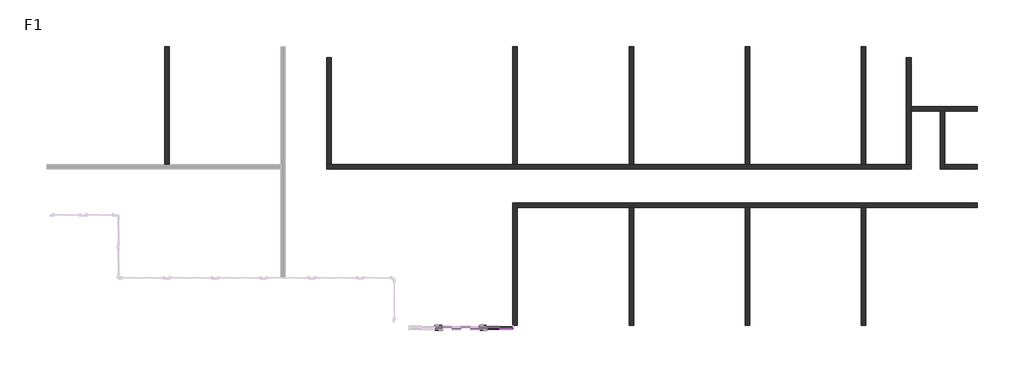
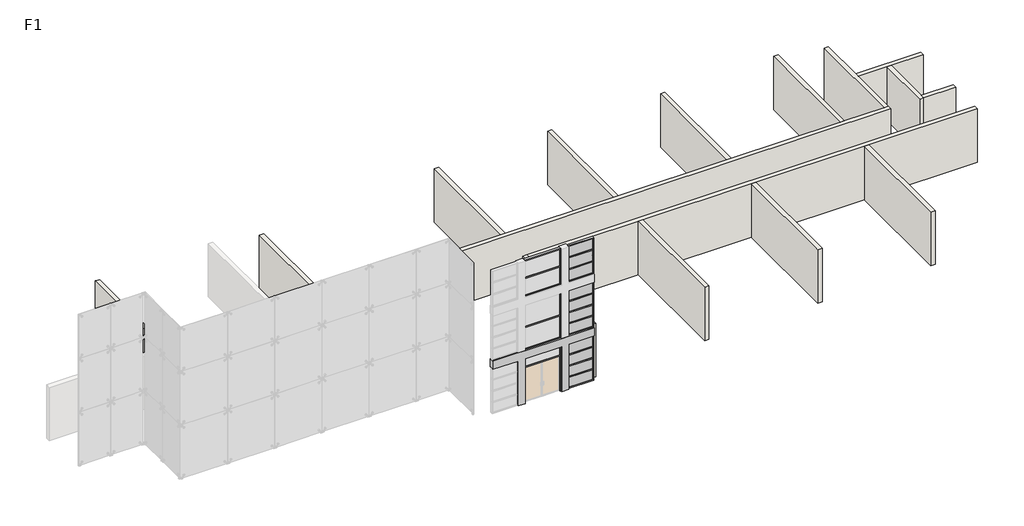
# One storey, part 2 of 2: 61 members, 16 walls, 12 plates.
"""IFC4 building model written with IfcOpenShell, lengths in millimetres."""

from ifc_helpers import new_model, si_unit, origin, origin_with_axes, place, context, project, spatial, polyline, outline, extrude, faceted_brep, transform, mapped, element, save
from components import member_50x150mm_c6049076, member_50x150mm_26769b4d, member_50x150mm_55273b40, member_50x150mm_84253eda, member_50x150mm_532eda0d, member_50x150mm_457f9466, member_50x150mm_6270d9f9, member_50x150mm_9e0f1e24, member_50x150mm_e11a3e7b, member_50x150mm_0d3281e4, member_50x150mm_205d2b36, member_50x150mm_b8963a12, member_50x150mm_14293e16, member_50x150mm_5dc04e1f, member_50x150mm_4883e7f1, member_50x150mm_491df31a, member_50x150mm_89bf1671, member_50x150mm_e5f2d676, member_50x150mm_7171523c, member_50x150mm_b8dbbb25, plate_a1f4ba17, plate_625a1d1a, plate_77a94082, plate_7cde3f8c, plate_973c4cc4, plate_8eec5e89

model = new_model("IFC4")

# Units and contexts
model_context = context("Model", 3, world=origin())
ifc_project = project(units=[si_unit("LENGTHUNIT", "METRE", prefix="MILLI")], contexts=[model_context])

# Site, building, storey
site = spatial("IfcSite", under=ifc_project)
building = spatial("IfcBuilding", under=site)
storey = spatial("IfcBuildingStorey", under=building, Name="F1", Elevation=0.0)

# Members
placement = place(None, origin())
member_50x150mm_shape = member_50x150mm_c6049076(model_context)
element("IfcMember", 1, ObjectType="矩形竖梃 : 50X150mm", at=placement, inside=storey, context=model_context, shape_type="MappedRepresentation", body=[
    mapped(member_50x150mm_shape, transform((-9571.7970835, -28279.0484842, 2250.0), x_axis=(0.0, 0.0, 1.0), y_axis=(0.0, -1.0, 0.0), z_axis=(1.0, 0.0, 0.0))),
])
element("IfcMember", 2, ObjectType="矩形竖梃 : 50X150mm", at=placement, inside=storey, context=model_context, shape_type="MappedRepresentation", body=[
    mapped(member_50x150mm_shape, transform((-9571.7970835, -28279.0484842, 4350.0), x_axis=(0.0, 0.0, 1.0), y_axis=(0.0, -1.0, 0.0), z_axis=(1.0, 0.0, 0.0))),
])
element("IfcMember", 3, ObjectType="矩形竖梃 : 50X150mm", at=placement, inside=storey, context=model_context, shape_type="MappedRepresentation", body=[
    mapped(member_50x150mm_shape, transform((-9571.7970835, -28279.0484842, 5100.0), x_axis=(0.0, 0.0, 1.0), y_axis=(0.0, -1.0, 0.0), z_axis=(1.0, 0.0, 0.0))),
])
element("IfcMember", 4, ObjectType="矩形竖梃 : 50X150mm", at=placement, inside=storey, context=model_context, shape_type="MappedRepresentation", body=[
    mapped(member_50x150mm_shape, transform((-9571.7970835, -28279.0484842, 5850.0), x_axis=(0.0, 0.0, 1.0), y_axis=(0.0, -1.0, 0.0), z_axis=(1.0, 0.0, 0.0))),
])
element("IfcMember", 5, ObjectType="矩形竖梃 : 50X150mm", at=placement, inside=storey, context=model_context, shape_type="MappedRepresentation", body=[
    mapped(member_50x150mm_shape, transform((-9571.7970835, -28279.0484842, 8000.0), x_axis=(0.0, 0.0, 1.0), y_axis=(0.0, -1.0, 0.0), z_axis=(1.0, 0.0, 0.0))),
])
element("IfcMember", 6, ObjectType="矩形竖梃 : 50X150mm", at=placement, inside=storey, context=model_context, shape_type="MappedRepresentation", body=[
    mapped(member_50x150mm_shape, transform((-9571.7970835, -28279.0484842, 750.0), x_axis=(0.0, 0.0, 1.0), y_axis=(0.0, -1.0, 0.0), z_axis=(1.0, 0.0, 0.0))),
])
element("IfcMember", 7, ObjectType="矩形竖梃 : 50X150mm", at=placement, inside=storey, context=model_context, shape_type="MappedRepresentation", body=[
    mapped(member_50x150mm_shape, transform((-9571.7970835, -28279.0484842, 1500.0), x_axis=(0.0, 0.0, 1.0), y_axis=(0.0, -1.0, 0.0), z_axis=(1.0, 0.0, 0.0))),
])
element("IfcMember", 8, ObjectType="矩形竖梃 : 50X150mm", at=placement, inside=storey, context=model_context, shape_type="MappedRepresentation", body=[
    mapped(member_50x150mm_shape, transform((-9571.7970835, -28279.0484842, 8800.0), x_axis=(0.0, 0.0, 1.0), y_axis=(0.0, -1.0, 0.0), z_axis=(1.0, 0.0, 0.0))),
])
element("IfcMember", 9, ObjectType="矩形竖梃 : 50X150mm", at=placement, inside=storey, context=model_context, shape_type="MappedRepresentation", body=[
    mapped(member_50x150mm_shape, transform((-9571.7970835, -28279.0484842, 3000.0), x_axis=(0.0, 0.0, 1.0), y_axis=(0.0, -1.0, 0.0), z_axis=(1.0, 0.0, 0.0))),
])
element("IfcMember", 10, ObjectType="矩形竖梃 : 50X150mm", at=placement, inside=storey, context=model_context, shape_type="MappedRepresentation", body=[
    mapped(member_50x150mm_shape, transform((-9571.7970835, -28279.0484842, 6600.0), x_axis=(0.0, 0.0, 1.0), y_axis=(0.0, -1.0, 0.0), z_axis=(1.0, 0.0, 0.0))),
])
element("IfcMember", 11, ObjectType="矩形竖梃 : 50X150mm", at=placement, inside=storey, context=model_context, shape_type="MappedRepresentation", body=[
    mapped(member_50x150mm_shape, transform((-9571.7970835, -28279.0484842, 7200.0), x_axis=(0.0, 0.0, 1.0), y_axis=(0.0, -1.0, 0.0), z_axis=(1.0, 0.0, 0.0))),
])
element("IfcMember", 12, ObjectType="矩形竖梃 : 50X150mm", at=placement, inside=storey, context=model_context, shape_type="MappedRepresentation", body=[
    mapped(member_50x150mm_shape, transform((-9571.7970835, -28279.0484842, 3600.0), x_axis=(0.0, 0.0, 1.0), y_axis=(0.0, -1.0, 0.0), z_axis=(1.0, 0.0, 0.0))),
])
member_50x150mm_2_shape = member_50x150mm_26769b4d(model_context)
element("IfcMember", 13, ObjectType="矩形竖梃 : 50X150mm", at=placement, inside=storey, context=model_context, shape_type="MappedRepresentation", body=[
    mapped(member_50x150mm_2_shape, transform((-11596.7970835, -28279.0484842, 5100.0), x_axis=(0.0, 0.0, 1.0), y_axis=(0.0, -1.0, 0.0), z_axis=(1.0, 0.0, 0.0))),
])
element("IfcMember", 14, ObjectType="矩形竖梃 : 50X150mm", at=placement, inside=storey, context=model_context, shape_type="MappedRepresentation", body=[
    mapped(member_50x150mm_2_shape, transform((-11596.7970835, -28279.0484842, 8400.0), x_axis=(0.0, 0.0, 1.0), y_axis=(0.0, -1.0, 0.0), z_axis=(1.0, 0.0, 0.0))),
])
element("IfcMember", 15, ObjectType="矩形竖梃 : 50X150mm", at=placement, inside=storey, context=model_context, shape_type="MappedRepresentation", body=[
    mapped(member_50x150mm_2_shape, transform((-11596.7970835, -28279.0484842, 3000.0), x_axis=(0.0, 0.0, 1.0), y_axis=(0.0, -1.0, 0.0), z_axis=(1.0, 0.0, 0.0))),
])
element("IfcMember", 16, ObjectType="矩形竖梃 : 50X150mm", at=placement, inside=storey, context=model_context, shape_type="MappedRepresentation", body=[
    mapped(member_50x150mm_2_shape, transform((-11596.7970835, -28279.0484842, 6600.0), x_axis=(0.0, 0.0, 1.0), y_axis=(0.0, -1.0, 0.0), z_axis=(1.0, 0.0, 0.0))),
])
element("IfcMember", 17, ObjectType="矩形竖梃 : 50X150mm", at=placement, inside=storey, context=model_context, shape_type="MappedRepresentation", body=[
    mapped(member_50x150mm_2_shape, transform((-11596.7970835, -28279.0484842, 7200.0), x_axis=(0.0, 0.0, 1.0), y_axis=(0.0, -1.0, 0.0), z_axis=(1.0, 0.0, 0.0))),
])
element("IfcMember", 18, ObjectType="矩形竖梃 : 50X150mm", at=placement, inside=storey, context=model_context, shape_type="MappedRepresentation", body=[
    mapped(member_50x150mm_2_shape, transform((-11596.7970835, -28279.0484842, 3600.0), x_axis=(0.0, 0.0, 1.0), y_axis=(0.0, -1.0, 0.0), z_axis=(1.0, 0.0, 0.0))),
])
element("IfcMember", 19, ObjectType="矩形竖梃 : 50X150mm", at=placement, inside=storey, context=model_context, shape_type="MappedRepresentation", body=[
    mapped(member_50x150mm_2_shape, transform((-11596.7970835, -28279.0484842, 2400.0), x_axis=(0.0, 0.0, 1.0), y_axis=(0.0, -1.0, 0.0), z_axis=(1.0, 0.0, 0.0))),
])
member_50x150mm_3_shape = member_50x150mm_55273b40(model_context)
element("IfcMember", 20, ObjectType="矩形竖梃 : 50X150mm", at=placement, inside=storey, context=model_context, shape_type="MappedRepresentation", body=[
    mapped(member_50x150mm_3_shape, transform((-11621.7970835, -28279.0484842, 8000.0), x_axis=(1.0, 0.0, 0.0), y_axis=(0.0, -1.0, 0.0), z_axis=(0.0, 0.0, -1.0))),
])
element("IfcMember", 21, ObjectType="矩形竖梃 : 50X150mm", at=placement, inside=storey, context=model_context, shape_type="MappedRepresentation", body=[
    mapped(member_50x150mm_3_shape, transform((-11121.7970835, -28279.0484842, 8400.0), x_axis=(1.0, 0.0, 0.0), y_axis=(0.0, -1.0, 0.0), z_axis=(0.0, 0.0, -1.0))),
])
member_50x150mm_4_shape = member_50x150mm_84253eda(model_context)
element("IfcMember", 22, ObjectType="矩形竖梃 : 50X150mm", at=placement, inside=storey, context=model_context, shape_type="MappedRepresentation", body=[
    mapped(member_50x150mm_4_shape, transform((-11121.7970835, -28279.0484842, 775.0), x_axis=(1.0, 0.0, 0.0), y_axis=(0.0, -1.0, 0.0), z_axis=(0.0, 0.0, -1.0))),
])
element("IfcMember", 23, ObjectType="矩形竖梃 : 50X150mm", at=placement, inside=storey, context=model_context, shape_type="MappedRepresentation", body=[
    mapped(member_50x150mm_4_shape, transform((-11121.7970835, -28279.0484842, 1525.0), x_axis=(1.0, 0.0, 0.0), y_axis=(0.0, -1.0, 0.0), z_axis=(0.0, 0.0, -1.0))),
])
element("IfcMember", 24, ObjectType="矩形竖梃 : 50X150mm", at=placement, inside=storey, context=model_context, shape_type="MappedRepresentation", body=[
    mapped(member_50x150mm_4_shape, transform((-11121.7970835, -28279.0484842, 4375.0), x_axis=(1.0, 0.0, 0.0), y_axis=(0.0, -1.0, 0.0), z_axis=(0.0, 0.0, -1.0))),
])
element("IfcMember", 25, ObjectType="矩形竖梃 : 50X150mm", at=placement, inside=storey, context=model_context, shape_type="MappedRepresentation", body=[
    mapped(member_50x150mm_4_shape, transform((-11121.7970835, -28279.0484842, 5125.0), x_axis=(1.0, 0.0, 0.0), y_axis=(0.0, -1.0, 0.0), z_axis=(0.0, 0.0, -1.0))),
])
element("IfcMember", 26, ObjectType="矩形竖梃 : 50X150mm", at=placement, inside=storey, context=model_context, shape_type="MappedRepresentation", body=[
    mapped(member_50x150mm_4_shape, transform((-11121.7970835, -28279.0484842, 5875.0), x_axis=(1.0, 0.0, 0.0), y_axis=(0.0, -1.0, 0.0), z_axis=(0.0, 0.0, -1.0))),
])
element("IfcMember", 27, ObjectType="矩形竖梃 : 50X150mm", at=placement, inside=storey, context=model_context, shape_type="MappedRepresentation", body=[
    mapped(member_50x150mm_4_shape, transform((-11121.7970835, -28279.0484842, 3625.0), x_axis=(1.0, 0.0, 0.0), y_axis=(0.0, -1.0, 0.0), z_axis=(0.0, 0.0, -1.0))),
])
element("IfcMember", 28, ObjectType="矩形竖梃 : 50X150mm", at=placement, inside=storey, context=model_context, shape_type="MappedRepresentation", body=[
    mapped(member_50x150mm_3_shape, transform((-11621.7970835, -28279.0484842, 8425.0), x_axis=(1.0, 0.0, 0.0), y_axis=(0.0, -1.0, 0.0), z_axis=(0.0, 0.0, -1.0))),
])
element("IfcMember", 29, ObjectType="矩形竖梃 : 50X150mm", at=placement, inside=storey, context=model_context, shape_type="MappedRepresentation", body=[
    mapped(member_50x150mm_3_shape, transform((-11121.7970835, -28279.0484842, 8025.0), x_axis=(1.0, 0.0, 0.0), y_axis=(0.0, -1.0, 0.0), z_axis=(0.0, 0.0, -1.0))),
])
member_50x150mm_5_shape = member_50x150mm_532eda0d(model_context)
element("IfcMember", 30, ObjectType="矩形竖梃 : 50X150mm", at=placement, inside=storey, context=model_context, shape_type="MappedRepresentation", body=[
    mapped(member_50x150mm_5_shape, transform((-11121.7970835, -28279.0484842, 8825.0), x_axis=(1.0, 0.0, 0.0), y_axis=(0.0, -1.0, 0.0), z_axis=(0.0, 0.0, -1.0))),
])
member_50x150mm_6_shape = member_50x150mm_457f9466(model_context)
element("IfcMember", 31, ObjectType="矩形竖梃 : 50X150mm", at=placement, inside=storey, context=model_context, shape_type="MappedRepresentation", body=[
    mapped(member_50x150mm_6_shape, transform((-11121.7970835, -28279.0484842, 7225.0), x_axis=(1.0, 0.0, 0.0), y_axis=(0.0, -1.0, 0.0), z_axis=(0.0, 0.0, -1.0))),
])
element("IfcMember", 32, ObjectType="矩形竖梃 : 50X150mm", at=placement, inside=storey, context=model_context, shape_type="MappedRepresentation", body=[
    mapped(member_50x150mm_6_shape, transform((-11621.7970835, -28279.0484842, 750.0), x_axis=(1.0, 0.0, 0.0), y_axis=(0.0, -1.0, 0.0), z_axis=(0.0, 0.0, -1.0))),
])
element("IfcMember", 33, ObjectType="矩形竖梃 : 50X150mm", at=placement, inside=storey, context=model_context, shape_type="MappedRepresentation", body=[
    mapped(member_50x150mm_6_shape, transform((-11621.7970835, -28279.0484842, 1500.0), x_axis=(1.0, 0.0, 0.0), y_axis=(0.0, -1.0, 0.0), z_axis=(0.0, 0.0, -1.0))),
])
element("IfcMember", 34, ObjectType="矩形竖梃 : 50X150mm", at=placement, inside=storey, context=model_context, shape_type="MappedRepresentation", body=[
    mapped(member_50x150mm_5_shape, transform((-11621.7970835, -28279.0484842, 4350.0), x_axis=(1.0, 0.0, 0.0), y_axis=(0.0, -1.0, 0.0), z_axis=(0.0, 0.0, -1.0))),
])
element("IfcMember", 35, ObjectType="矩形竖梃 : 50X150mm", at=placement, inside=storey, context=model_context, shape_type="MappedRepresentation", body=[
    mapped(member_50x150mm_5_shape, transform((-11621.7970835, -28279.0484842, 5850.0), x_axis=(1.0, 0.0, 0.0), y_axis=(0.0, -1.0, 0.0), z_axis=(0.0, 0.0, -1.0))),
])
element("IfcMember", 36, ObjectType="矩形竖梃 : 50X150mm", at=placement, inside=storey, context=model_context, shape_type="MappedRepresentation", body=[
    mapped(member_50x150mm_5_shape, transform((-11621.7970835, -28279.0484842, 5125.0), x_axis=(1.0, 0.0, 0.0), y_axis=(0.0, -1.0, 0.0), z_axis=(0.0, 0.0, -1.0))),
])
element("IfcMember", 37, ObjectType="矩形竖梃 : 50X150mm", at=placement, inside=storey, context=model_context, shape_type="MappedRepresentation", body=[
    mapped(member_50x150mm_5_shape, transform((-11621.7970835, -28279.0484842, 3625.0), x_axis=(1.0, 0.0, 0.0), y_axis=(0.0, -1.0, 0.0), z_axis=(0.0, 0.0, -1.0))),
])
element("IfcMember", 38, ObjectType="矩形竖梃 : 50X150mm", at=placement, inside=storey, context=model_context, shape_type="MappedRepresentation", body=[
    mapped(member_50x150mm_6_shape, transform((-11621.7970835, -28279.0484842, 8800.0), x_axis=(1.0, 0.0, 0.0), y_axis=(0.0, -1.0, 0.0), z_axis=(0.0, 0.0, -1.0))),
])
member_50x150mm_7_shape = member_50x150mm_6270d9f9(model_context)
element("IfcMember", 39, ObjectType="矩形竖梃 : 50X150mm", at=placement, inside=storey, context=model_context, shape_type="MappedRepresentation", body=[
    mapped(member_50x150mm_7_shape, transform((-11621.7970835, -28279.0484842, 7225.0), x_axis=(1.0, 0.0, 0.0), y_axis=(0.0, -1.0, 0.0), z_axis=(0.0, 0.0, -1.0))),
])
member_50x150mm_8_shape = member_50x150mm_9e0f1e24(model_context)
element("IfcMember", 40, ObjectType="矩形竖梃 : 50X150mm", at=placement, inside=storey, context=model_context, shape_type="MappedRepresentation", body=[
    mapped(member_50x150mm_8_shape, transform((-11121.7970835, -28279.0484842, 50.0), x_axis=(1.0, 0.0, 0.0), y_axis=(0.0, -1.0, 0.0), z_axis=(0.0, 0.0, -1.0))),
])
member_50x150mm_9_shape = member_50x150mm_e11a3e7b(model_context)
element("IfcMember", 41, ObjectType="矩形竖梃 : 50X150mm", at=placement, inside=storey, context=model_context, shape_type="MappedRepresentation", body=[
    mapped(member_50x150mm_9_shape, transform((-9521.7970835, -28279.0484842, 8400.0), x_axis=(1.0, 0.0, 0.0), y_axis=(0.0, -1.0, 0.0), z_axis=(0.0, 0.0, -1.0))),
])
member_50x150mm_10_shape = member_50x150mm_0d3281e4(model_context)
element("IfcMember", 42, ObjectType="矩形竖梃 : 50X150mm", at=placement, inside=storey, context=model_context, shape_type="MappedRepresentation", body=[
    mapped(member_50x150mm_10_shape, transform((-9521.7970835, -28279.0484842, 750.0), x_axis=(1.0, 0.0, 0.0), y_axis=(0.0, -1.0, 0.0), z_axis=(0.0, 0.0, -1.0))),
])
element("IfcMember", 43, ObjectType="矩形竖梃 : 50X150mm", at=placement, inside=storey, context=model_context, shape_type="MappedRepresentation", body=[
    mapped(member_50x150mm_10_shape, transform((-9521.7970835, -28279.0484842, 1500.0), x_axis=(1.0, 0.0, 0.0), y_axis=(0.0, -1.0, 0.0), z_axis=(0.0, 0.0, -1.0))),
])
element("IfcMember", 44, ObjectType="矩形竖梃 : 50X150mm", at=placement, inside=storey, context=model_context, shape_type="MappedRepresentation", body=[
    mapped(member_50x150mm_10_shape, transform((-9521.7970835, -28279.0484842, 4350.0), x_axis=(1.0, 0.0, 0.0), y_axis=(0.0, -1.0, 0.0), z_axis=(0.0, 0.0, -1.0))),
])
element("IfcMember", 45, ObjectType="矩形竖梃 : 50X150mm", at=placement, inside=storey, context=model_context, shape_type="MappedRepresentation", body=[
    mapped(member_50x150mm_10_shape, transform((-9521.7970835, -28279.0484842, 5100.0), x_axis=(1.0, 0.0, 0.0), y_axis=(0.0, -1.0, 0.0), z_axis=(0.0, 0.0, -1.0))),
])
element("IfcMember", 46, ObjectType="矩形竖梃 : 50X150mm", at=placement, inside=storey, context=model_context, shape_type="MappedRepresentation", body=[
    mapped(member_50x150mm_9_shape, transform((-9521.7970835, -28279.0484842, 8000.0), x_axis=(1.0, 0.0, 0.0), y_axis=(0.0, -1.0, 0.0), z_axis=(0.0, 0.0, -1.0))),
])
element("IfcMember", 47, ObjectType="矩形竖梃 : 50X150mm", at=placement, inside=storey, context=model_context, shape_type="MappedRepresentation", body=[
    mapped(member_50x150mm_10_shape, transform((-9521.7970835, -28279.0484842, 8800.0), x_axis=(1.0, 0.0, 0.0), y_axis=(0.0, -1.0, 0.0), z_axis=(0.0, 0.0, -1.0))),
])
member_50x150mm_11_shape = member_50x150mm_205d2b36(model_context)
element("IfcMember", 48, ObjectType="矩形竖梃 : 50X150mm", at=placement, inside=storey, context=model_context, shape_type="MappedRepresentation", body=[
    mapped(member_50x150mm_11_shape, transform((-9521.7970835, -28279.0484842, 50.0), x_axis=(1.0, 0.0, 0.0), y_axis=(0.0, -1.0, 0.0), z_axis=(0.0, 0.0, -1.0))),
])
member_50x150mm_12_shape = member_50x150mm_b8963a12(model_context)
element("IfcMember", 49, ObjectType="矩形竖梃 : 50X150mm", at=placement, inside=storey, context=model_context, shape_type="MappedRepresentation", body=[
    mapped(member_50x150mm_12_shape, transform((-9521.7970835, -28279.0484842, 9600.0), x_axis=(0.0, 0.0, 1.0), y_axis=(0.0, -1.0, 0.0), z_axis=(1.0, 0.0, 0.0))),
])
member_50x150mm_13_shape = member_50x150mm_14293e16(model_context)
element("IfcMember", 50, ObjectType="矩形竖梃 : 50X150mm", at=placement, inside=storey, context=model_context, shape_type="MappedRepresentation", body=[
    mapped(member_50x150mm_13_shape, transform((-11596.7970835, -28279.0484842, 9600.0), x_axis=(0.0, 0.0, 1.0), y_axis=(0.0, -1.0, 0.0), z_axis=(1.0, 0.0, 0.0))),
])
member_50x150mm_14_shape = member_50x150mm_5dc04e1f(model_context)
element("IfcMember", 51, ObjectType="矩形竖梃 : 50X150mm", at=placement, inside=storey, context=model_context, shape_type="MappedRepresentation", body=[
    mapped(member_50x150mm_14_shape, transform((-9521.7970835, -28279.0484842, 5850.0), x_axis=(1.0, 0.0, 0.0), y_axis=(0.0, -1.0, 0.0), z_axis=(0.0, 0.0, -1.0))),
])
member_50x150mm_15_shape = member_50x150mm_4883e7f1(model_context)
element("IfcMember", 52, ObjectType="矩形竖梃 : 50X150mm", at=placement, inside=storey, context=model_context, shape_type="MappedRepresentation", body=[
    mapped(member_50x150mm_15_shape, transform((-9521.7970835, -28279.0484842, 7175.0), x_axis=(1.0, 0.0, 0.0), y_axis=(0.0, -1.0, 0.0), z_axis=(0.0, 0.0, -1.0))),
])
element("IfcMember", 53, ObjectType="矩形竖梃 : 50X150mm", at=placement, inside=storey, context=model_context, shape_type="MappedRepresentation", body=[
    mapped(member_50x150mm_14_shape, transform((-9521.7970835, -28279.0484842, 3575.0), x_axis=(1.0, 0.0, 0.0), y_axis=(0.0, -1.0, 0.0), z_axis=(0.0, 0.0, -1.0))),
])
element("IfcMember", 54, ObjectType="矩形竖梃 : 50X150mm", at=placement, inside=storey, context=model_context, shape_type="MappedRepresentation", body=[
    mapped(member_50x150mm_12_shape, transform((-11146.7970835, -28279.0484842, 0.0), x_axis=(0.0, 0.0, -1.0), y_axis=(0.0, -1.0, 0.0), z_axis=(-1.0, 0.0, 0.0))),
])
member_50x150mm_16_shape = member_50x150mm_491df31a(model_context)
element("IfcMember", 55, ObjectType="矩形竖梃 : 50X150mm", at=placement, inside=storey, context=model_context, shape_type="MappedRepresentation", body=[
    mapped(member_50x150mm_16_shape, transform((-11121.7970835, -28279.0484842, 2275.0), x_axis=(1.0, 0.0, 0.0), y_axis=(0.0, -1.0, 0.0), z_axis=(0.0, 0.0, -1.0))),
])
member_50x150mm_17_shape = member_50x150mm_89bf1671(model_context)
element("IfcMember", 56, ObjectType="矩形竖梃 : 50X150mm", at=placement, inside=storey, context=model_context, shape_type="MappedRepresentation", body=[
    mapped(member_50x150mm_17_shape, transform((-11121.7970835, -28279.0484842, 2400.0), x_axis=(1.0, 0.0, 0.0), y_axis=(0.0, -1.0, 0.0), z_axis=(0.0, 0.0, -1.0))),
])
member_50x150mm_18_shape = member_50x150mm_e5f2d676(model_context)
element("IfcMember", 57, ObjectType="矩形竖梃 : 50X150mm", at=placement, inside=storey, context=model_context, shape_type="MappedRepresentation", body=[
    mapped(member_50x150mm_18_shape, transform((-9521.7970835, -28279.0484842, 2250.0), x_axis=(1.0, 0.0, 0.0), y_axis=(0.0, -1.0, 0.0), z_axis=(0.0, 0.0, -1.0))),
])
member_50x150mm_19_shape = member_50x150mm_7171523c(model_context)
element("IfcMember", 58, ObjectType="矩形竖梃 : 50X150mm", at=placement, inside=storey, context=model_context, shape_type="MappedRepresentation", body=[
    mapped(member_50x150mm_19_shape, transform((-9521.7970835, -28279.0484842, 2400.0), x_axis=(1.0, 0.0, 0.0), y_axis=(0.0, -1.0, 0.0), z_axis=(0.0, 0.0, -1.0))),
])
element("IfcMember", 59, ObjectType="矩形竖梃 : 50X150mm", at=placement, inside=storey, context=model_context, shape_type="MappedRepresentation", body=[
    mapped(member_50x150mm_16_shape, transform((-11621.7970835, -28279.0484842, 2250.0), x_axis=(1.0, 0.0, 0.0), y_axis=(0.0, -1.0, 0.0), z_axis=(0.0, 0.0, -1.0))),
])
member_50x150mm_20_shape = member_50x150mm_b8dbbb25(model_context)
element("IfcMember", 60, ObjectType="矩形竖梃 : 50X150mm", at=placement, inside=storey, context=model_context, shape_type="MappedRepresentation", body=[
    mapped(member_50x150mm_20_shape, transform((-11621.7970835, -28279.0484842, 2425.0), x_axis=(1.0, 0.0, 0.0), y_axis=(0.0, -1.0, 0.0), z_axis=(0.0, 0.0, -1.0))),
])
element("IfcMember", 61, ObjectType="矩形竖梃 : 50X150mm", at=placement, inside=storey, context=model_context, shape_type="MappedRepresentation", body=[
    mapped(member_50x150mm_6_shape, transform((-11621.7970835, -28279.0484842, 0.0), x_axis=(1.0, 0.0, 0.0), y_axis=(0.0, -1.0, 0.0), z_axis=(0.0, 0.0, -1.0))),
])

# Plates
element("IfcPlate", 62, ObjectType="F1-24CM-外牆", at=placement, inside=storey, context=model_context, shape_type="Brep", body=[
    faceted_brep([(-11596.7970835, -28429.0484842, 0.0), (-11146.7970835, -28429.0484842, 0.0), (-11146.7970835, -28429.0484842, 750.0), (-11146.7970835, -28429.0484842, 1500.0), (-11146.7970835, -28429.0484842, 2250.0), (-11146.7970835, -28429.0484842, 2400.0), (-11146.7970835, -28429.0484842, 3025.0), (-9521.7970835, -28429.0484842, 3025.0), (-9521.7970835, -28429.0484842, 3575.0), (-11146.7970835, -28429.0484842, 3575.0), (-11596.7970835, -28429.0484842, 3575.0), (-13906.7970835, -28429.0484842, 3575.0), (-14356.7970835, -28429.0484842, 3575.0), (-15981.7970835, -28429.0484842, 3575.0), (-15981.7970835, -28429.0484842, 3025.0), (-14356.7970835, -28429.0484842, 3025.0), (-14356.7970835, -28429.0484842, 2400.0), (-14356.7970835, -28429.0484842, 2250.0), (-14356.7970835, -28429.0484842, 1500.0), (-14356.7970835, -28429.0484842, 750.0), (-14356.7970835, -28429.0484842, 0.0), (-13906.7970835, -28429.0484842, 0.0), (-13906.7970835, -28429.0484842, 750.0), (-13906.7970835, -28429.0484842, 1500.0), (-13906.7970835, -28429.0484842, 2250.0), (-13906.7970835, -28429.0484842, 2400.0), (-13906.7970835, -28429.0484842, 3025.0), (-11596.7970835, -28429.0484842, 3025.0), (-11596.7970835, -28429.0484842, 2400.0), (-11596.7970835, -28429.0484842, 2250.0), (-11596.7970835, -28429.0484842, 1500.0), (-11596.7970835, -28429.0484842, 750.0), (-15981.7970835, -28129.0484842, 3025.0), (-15981.7970835, -28129.0484842, 3575.0), (-14356.7970835, -28129.0484842, 3575.0), (-13906.7970835, -28129.0484842, 3575.0), (-11596.7970835, -28129.0484842, 3575.0), (-11146.7970835, -28129.0484842, 3575.0), (-9521.7970835, -28129.0484842, 3575.0), (-9521.7970835, -28129.0484842, 3025.0), (-11146.7970835, -28129.0484842, 3025.0), (-11146.7970835, -28129.0484842, 2400.0), (-11146.7970835, -28129.0484842, 2250.0), (-11146.7970835, -28129.0484842, 1500.0), (-11146.7970835, -28129.0484842, 750.0), (-11146.7970835, -28129.0484842, 0.0), (-11596.7970835, -28129.0484842, 0.0), (-11596.7970835, -28129.0484842, 750.0), (-11596.7970835, -28129.0484842, 1500.0), (-11596.7970835, -28129.0484842, 2250.0), (-11596.7970835, -28129.0484842, 2400.0), (-11596.7970835, -28129.0484842, 3025.0), (-13906.7970835, -28129.0484842, 3025.0), (-13906.7970835, -28129.0484842, 2400.0), (-13906.7970835, -28129.0484842, 2250.0), (-13906.7970835, -28129.0484842, 1500.0), (-13906.7970835, -28129.0484842, 750.0), (-13906.7970835, -28129.0484842, 0.0), (-14356.7970835, -28129.0484842, 0.0), (-14356.7970835, -28129.0484842, 750.0), (-14356.7970835, -28129.0484842, 1500.0), (-14356.7970835, -28129.0484842, 2250.0), (-14356.7970835, -28129.0484842, 2400.0), (-14356.7970835, -28129.0484842, 3025.0)], [[[0, 1, 2, 3, 4, 5, 6, 7, 8, 9, 10, 11, 12, 13, 14, 15, 16, 17, 18, 19, 20, 21, 22, 23, 24, 25, 26, 27, 28, 29, 30, 31]], [[32, 33, 34, 35, 36, 37, 38, 39, 40, 41, 42, 43, 44, 45, 46, 47, 48, 49, 50, 51, 52, 53, 54, 55, 56, 57, 58, 59, 60, 61, 62, 63]], [[1, 0, 46, 45]], [[21, 20, 58, 57]], [[33, 13, 12, 11, 10, 9, 8, 38, 37, 36, 35, 34]], [[13, 33, 32, 14]], [[56, 22, 21, 57]], [[22, 56, 55, 23]], [[23, 55, 54, 24]], [[24, 54, 53, 25]], [[25, 53, 52, 26]], [[26, 52, 51, 27]], [[27, 51, 50, 28]], [[28, 50, 49, 29]], [[29, 49, 48, 30]], [[30, 48, 47, 31]], [[31, 47, 46, 0]], [[44, 2, 1, 45]], [[2, 44, 43, 3]], [[3, 43, 42, 4]], [[4, 42, 41, 5]], [[5, 41, 40, 6]], [[6, 40, 39, 7]], [[7, 39, 38, 8]], [[63, 15, 14, 32]], [[15, 63, 62, 16]], [[16, 62, 61, 17]], [[17, 61, 60, 18]], [[18, 60, 59, 19]], [[19, 59, 58, 20]]]),
])
plate_shape = plate_a1f4ba17(model_context)
element("IfcPlate", 63, ObjectType="系统嵌板 : 玻璃", at=placement, inside=storey, context=model_context, shape_type="MappedRepresentation", body=[
    mapped(plate_shape, transform((-10334.2970835, -28279.0484842, 50.0), x_axis=(1.0, 0.0, 0.0), y_axis=(0.0, 1.0, 0.0), z_axis=(0.0, 0.0, 1.0))),
])
plate_2_shape = plate_625a1d1a(model_context)
element("IfcPlate", 64, ObjectType="系统嵌板 : 玻璃", at=placement, inside=storey, context=model_context, shape_type="MappedRepresentation", body=[
    mapped(plate_2_shape, transform((-10334.2970835, -28279.0484842, 3625.0), x_axis=(1.0, 0.0, 0.0), y_axis=(0.0, 1.0, 0.0), z_axis=(0.0, 0.0, 1.0))),
])
element("IfcPlate", 65, ObjectType="系统嵌板 : 玻璃", at=placement, inside=storey, context=model_context, shape_type="MappedRepresentation", body=[
    mapped(plate_2_shape, transform((-10334.2970835, -28279.0484842, 5875.0), x_axis=(1.0, 0.0, 0.0), y_axis=(0.0, 1.0, 0.0), z_axis=(0.0, 0.0, 1.0))),
])
element("IfcPlate", 66, ObjectType="系统嵌板 : 玻璃", at=placement, inside=storey, context=model_context, shape_type="MappedRepresentation", body=[
    mapped(plate_2_shape, transform((-10334.2970835, -28279.0484842, 5125.0), x_axis=(1.0, 0.0, 0.0), y_axis=(0.0, 1.0, 0.0), z_axis=(0.0, 0.0, 1.0))),
])
element("IfcPlate", 67, ObjectType="系统嵌板 : 玻璃", at=placement, inside=storey, context=model_context, shape_type="MappedRepresentation", body=[
    mapped(plate_2_shape, transform((-10334.2970835, -28279.0484842, 4375.0), x_axis=(1.0, 0.0, 0.0), y_axis=(0.0, 1.0, 0.0), z_axis=(0.0, 0.0, 1.0))),
])
element("IfcPlate", 68, ObjectType="系统嵌板 : 玻璃", at=placement, inside=storey, context=model_context, shape_type="MappedRepresentation", body=[
    mapped(plate_2_shape, transform((-10334.2970835, -28279.0484842, 1525.0), x_axis=(1.0, 0.0, 0.0), y_axis=(0.0, 1.0, 0.0), z_axis=(0.0, 0.0, 1.0))),
])
element("IfcPlate", 69, ObjectType="系统嵌板 : 玻璃", at=placement, inside=storey, context=model_context, shape_type="MappedRepresentation", body=[
    mapped(plate_2_shape, transform((-10334.2970835, -28279.0484842, 775.0), x_axis=(1.0, 0.0, 0.0), y_axis=(0.0, 1.0, 0.0), z_axis=(0.0, 0.0, 1.0))),
])
plate_3_shape = plate_77a94082(model_context)
element("IfcPlate", 70, ObjectType="系统嵌板 : 玻璃", at=placement, inside=storey, context=model_context, shape_type="MappedRepresentation", body=[
    mapped(plate_3_shape, transform((-10334.2970835, -28279.0484842, 7225.0), x_axis=(1.0, 0.0, 0.0), y_axis=(0.0, 1.0, 0.0), z_axis=(0.0, 0.0, 1.0))),
])
plate_4_shape = plate_7cde3f8c(model_context)
element("IfcPlate", 71, ObjectType="系统嵌板 : 玻璃", at=placement, inside=storey, context=model_context, shape_type="MappedRepresentation", body=[
    mapped(plate_4_shape, transform((-10334.2970835, -28279.0484842, 8825.0), x_axis=(1.0, 0.0, 0.0), y_axis=(0.0, 1.0, 0.0), z_axis=(0.0, 0.0, 1.0))),
])
plate_5_shape = plate_973c4cc4(model_context)
element("IfcPlate", 72, ObjectType="系统嵌板 : 玻璃", at=placement, inside=storey, context=model_context, shape_type="MappedRepresentation", body=[
    mapped(plate_5_shape, transform((-10334.2970835, -28279.0484842, 8025.0), x_axis=(1.0, 0.0, 0.0), y_axis=(0.0, 1.0, 0.0), z_axis=(0.0, 0.0, 1.0))),
])
plate_6_shape = plate_8eec5e89(model_context)
element("IfcPlate", 73, ObjectType="系统嵌板 : 玻璃", at=placement, inside=storey, context=model_context, shape_type="MappedRepresentation", body=[
    mapped(plate_6_shape, transform((-10334.2970835, -28279.0484842, 2275.0), x_axis=(1.0, 0.0, 0.0), y_axis=(0.0, 1.0, 0.0), z_axis=(0.0, 0.0, 1.0))),
])

# Walls
element("IfcWall", 74, ObjectType="辦公室-24cm-內牆", at=placement, inside=storey, context=model_context, shape_type="Brep", body=[
    faceted_brep([(-9241.7970835, -28129.0484842, 3600.0), (-9241.7970835, -28129.0484842, 0.0), (-9241.7970835, -20809.0484842, 0.0), (-9241.7970835, -20529.0484842, 0.0), (-9241.7970835, -20529.0484842, 3600.0), (-9241.7970835, -20809.0484842, 3600.0), (-9521.7970835, -28129.0484842, 0.0), (-9521.7970835, -28129.0484842, 3600.0), (-9521.7970835, -20529.0484842, 3600.0), (-9521.7970835, -20529.0484842, 0.0)], [[[0, 1, 2, 3, 4, 5]], [[6, 7, 8, 9]], [[3, 2, 1, 6, 9]], [[0, 5, 4, 8, 7]], [[4, 3, 9, 8]], [[0, 7, 6, 1]]]),
])
element("IfcWall", 75, ObjectType="辦公室-24cm-內牆", at=placement, inside=storey, context=model_context, shape_type="Brep", body=[
    faceted_brep([(-9241.7970835, -20809.0484842, 0.0), (-2321.7970835, -20809.0484842, 0.0), (-2041.7970835, -20809.0484842, 0.0), (4883.2029165, -20809.0484842, 0.0), (5163.2029165, -20809.0484842, 0.0), (12078.2029165, -20809.0484842, 0.0), (12358.2029165, -20809.0484842, 0.0), (19278.2029165, -20809.0484842, 0.0), (19278.2029165, -20809.0484842, 3600.0), (12358.2029165, -20809.0484842, 3600.0), (12078.2029165, -20809.0484842, 3600.0), (5163.2029165, -20809.0484842, 3600.0), (4883.2029165, -20809.0484842, 3600.0), (-2041.7970835, -20809.0484842, 3600.0), (-2321.7970835, -20809.0484842, 3600.0), (-9241.7970835, -20809.0484842, 3600.0), (-9241.7970835, -20529.0484842, 0.0), (-9241.7970835, -20529.0484842, 3600.0), (19278.2029165, -20529.0484842, 3600.0), (19278.2029165, -20529.0484842, 0.0)], [[[0, 1, 2, 3, 4, 5, 6, 7, 8, 9, 10, 11, 12, 13, 14, 15]], [[16, 17, 18, 19]], [[7, 6, 5, 4, 3, 2, 1, 0, 16, 19]], [[15, 14, 13, 12, 11, 10, 9, 8, 18, 17]], [[0, 15, 17, 16]], [[8, 7, 19, 18]]]),
])
element("IfcWall", 76, ObjectType="辦公室-24cm-內牆", at=placement, inside=storey, context=model_context, shape_type="SweptSolid", body=[
    extrude(outline(polyline([(-2321.7970835, -28129.0484842), (-2321.7970835, -20809.0484842), (-2041.7970835, -20809.0484842), (-2041.7970835, -28129.0484842), (-2321.7970835, -28129.0484842)])), origin_with_axes(), (0.0, 0.0, 1.0), 3600.0),
])
element("IfcWall", 77, ObjectType="辦公室-24cm-內牆", at=placement, inside=storey, context=model_context, shape_type="SweptSolid", body=[
    extrude(outline(polyline([(4883.2029165, -28129.0484842), (4883.2029165, -20809.0484842), (5163.2029165, -20809.0484842), (5163.2029165, -28129.0484842), (4883.2029165, -28129.0484842)])), origin_with_axes(), (0.0, 0.0, 1.0), 3600.0),
])
element("IfcWall", 78, ObjectType="辦公室-24cm-內牆", at=placement, inside=storey, context=model_context, shape_type="SweptSolid", body=[
    extrude(outline(polyline([(12078.2029165, -28129.0484842), (12078.2029165, -20809.0484842), (12358.2029165, -20809.0484842), (12358.2029165, -28129.0484842), (12078.2029165, -28129.0484842)])), origin_with_axes(), (0.0, 0.0, 1.0), 3600.0),
])
element("IfcWall", 79, ObjectType="辦公室-24cm-內牆", at=placement, inside=storey, context=model_context, shape_type="SweptSolid", body=[
    extrude(outline(polyline([(-9521.7970835, -18129.0484842), (-9521.7970835, -10809.0484842), (-9241.7970835, -10809.0484842), (-9241.7970835, -18129.0484842), (-9521.7970835, -18129.0484842)])), origin_with_axes(), (0.0, 0.0, 1.0), 3600.0),
])
element("IfcWall", 80, ObjectType="辦公室-24cm-內牆", at=placement, inside=storey, context=model_context, shape_type="Brep", body=[
    faceted_brep([(-21081.7970835, -18409.0484842, 0.0), (15158.2029165, -18409.0484842, 0.0), (15158.2029165, -18409.0484842, 3600.0), (-21081.7970835, -18409.0484842, 3600.0), (-21081.7970835, -18129.0484842, 0.0), (-21081.7970835, -18129.0484842, 3600.0), (-20801.7970835, -18129.0484842, 3600.0), (-9521.7970835, -18129.0484842, 3600.0), (-9241.7970835, -18129.0484842, 3600.0), (-2321.7970835, -18129.0484842, 3600.0), (-2041.7970835, -18129.0484842, 3600.0), (4878.2029165, -18129.0484842, 3600.0), (5158.2029165, -18129.0484842, 3600.0), (12078.2029165, -18129.0484842, 3600.0), (12358.2029165, -18129.0484842, 3600.0), (14878.2029165, -18129.0484842, 3600.0), (15158.2029165, -18129.0484842, 3600.0), (15158.2029165, -18129.0484842, 0.0), (14878.2029165, -18129.0484842, 0.0), (12358.2029165, -18129.0484842, 0.0), (12078.2029165, -18129.0484842, 0.0), (5158.2029165, -18129.0484842, 0.0), (4878.2029165, -18129.0484842, 0.0), (-2041.7970835, -18129.0484842, 0.0), (-2321.7970835, -18129.0484842, 0.0), (-9241.7970835, -18129.0484842, 0.0), (-9521.7970835, -18129.0484842, 0.0), (-20801.7970835, -18129.0484842, 0.0)], [[[0, 1, 2, 3]], [[4, 5, 6, 7, 8, 9, 10, 11, 12, 13, 14, 15, 16, 17, 18, 19, 20, 21, 22, 23, 24, 25, 26, 27]], [[1, 0, 4, 27, 26, 25, 24, 23, 22, 21, 20, 19, 18, 17]], [[3, 2, 16, 15, 14, 13, 12, 11, 10, 9, 8, 7, 6, 5]], [[2, 1, 17, 16]], [[0, 3, 5, 4]]]),
])
element("IfcWall", 81, ObjectType="辦公室-24cm-內牆", at=placement, inside=storey, context=model_context, shape_type="SweptSolid", body=[
    extrude(outline(polyline([(12078.2029165, -18129.0484842), (12078.2029165, -10809.0484842), (12358.2029165, -10809.0484842), (12358.2029165, -18129.0484842), (12078.2029165, -18129.0484842)])), origin_with_axes(), (0.0, 0.0, 1.0), 3600.0),
])
element("IfcWall", 82, ObjectType="辦公室-24cm-內牆", at=placement, inside=storey, context=model_context, shape_type="SweptSolid", body=[
    extrude(outline(polyline([(4878.2029165, -18129.0484842), (4878.2029165, -10809.0484842), (5158.2029165, -10809.0484842), (5158.2029165, -18129.0484842), (4878.2029165, -18129.0484842)])), origin_with_axes(), (0.0, 0.0, 1.0), 3600.0),
])
element("IfcWall", 83, ObjectType="辦公室-24cm-內牆", at=placement, inside=storey, context=model_context, shape_type="SweptSolid", body=[
    extrude(outline(polyline([(-2321.7970835, -18129.0484842), (-2321.7970835, -10809.0484842), (-2041.7970835, -10809.0484842), (-2041.7970835, -18129.0484842), (-2321.7970835, -18129.0484842)])), origin_with_axes(), (0.0, 0.0, 1.0), 3600.0),
])
element("IfcWall", 84, ObjectType="辦公室-24cm-內牆", at=placement, inside=storey, context=model_context, shape_type="Brep", body=[
    faceted_brep([(15158.2029165, -18129.0484842, 0.0), (15158.2029165, -14809.0484842, 0.0), (15158.2029165, -14529.0484842, 0.0), (15158.2029165, -11509.0484842, 0.0), (15158.2029165, -11509.0484842, 3600.0), (15158.2029165, -14529.0484842, 3600.0), (15158.2029165, -14809.0484842, 3600.0), (15158.2029165, -18129.0484842, 3600.0), (14878.2029165, -18129.0484842, 0.0), (14878.2029165, -18129.0484842, 3600.0), (14878.2029165, -11509.0484842, 3600.0), (14878.2029165, -11509.0484842, 0.0)], [[[0, 1, 2, 3, 4, 5, 6, 7]], [[8, 9, 10, 11]], [[3, 2, 1, 0, 8, 11]], [[7, 6, 5, 4, 10, 9]], [[4, 3, 11, 10]], [[0, 7, 9, 8]]]),
])
element("IfcWall", 85, ObjectType="辦公室-24cm-內牆", at=placement, inside=storey, context=model_context, shape_type="Brep", body=[
    faceted_brep([(15158.2029165, -14809.0484842, 0.0), (16978.2029165, -14809.0484842, 0.0), (17258.2029165, -14809.0484842, 0.0), (19278.2029165, -14809.0484842, 0.0), (19278.2029165, -14809.0484842, 3600.0), (17258.2029165, -14809.0484842, 3600.0), (16978.2029165, -14809.0484842, 3600.0), (15158.2029165, -14809.0484842, 3600.0), (15158.2029165, -14529.0484842, 0.0), (15158.2029165, -14529.0484842, 3600.0), (19278.2029165, -14529.0484842, 3600.0), (19278.2029165, -14529.0484842, 0.0)], [[[0, 1, 2, 3, 4, 5, 6, 7]], [[8, 9, 10, 11]], [[3, 2, 1, 0, 8, 11]], [[7, 6, 5, 4, 10, 9]], [[0, 7, 9, 8]], [[4, 3, 11, 10]]]),
])
element("IfcWall", 86, ObjectType="辦公室-24cm-內牆", at=placement, inside=storey, context=model_context, shape_type="Brep", body=[
    faceted_brep([(16978.2029165, -14809.0484842, 0.0), (16978.2029165, -18409.0484842, 0.0), (16978.2029165, -18409.0484842, 3600.0), (16978.2029165, -14809.0484842, 3600.0), (17258.2029165, -14809.0484842, 0.0), (17258.2029165, -14809.0484842, 3600.0), (17258.2029165, -18129.0484842, 3600.0), (17258.2029165, -18409.0484842, 3600.0), (17258.2029165, -18409.0484842, 0.0), (17258.2029165, -18129.0484842, 0.0)], [[[0, 1, 2, 3]], [[4, 5, 6, 7, 8, 9]], [[1, 0, 4, 9, 8]], [[3, 2, 7, 6, 5]], [[0, 3, 5, 4]], [[2, 1, 8, 7]]]),
])
element("IfcWall", 87, ObjectType="辦公室-24cm-內牆", at=placement, inside=storey, context=model_context, shape_type="SweptSolid", body=[
    extrude(outline(polyline([(19278.2029165, -18409.0484842), (17258.2029165, -18409.0484842), (17258.2029165, -18129.0484842), (19278.2029165, -18129.0484842), (19278.2029165, -18409.0484842)])), origin_with_axes(), (0.0, 0.0, 1.0), 3600.0),
])
element("IfcWall", 88, ObjectType="辦公室-24cm-內牆", at=placement, inside=storey, context=model_context, shape_type="SweptSolid", body=[
    extrude(outline(polyline([(-21081.7970835, -18129.0484842), (-21081.7970835, -11509.0484842), (-20801.7970835, -11509.0484842), (-20801.7970835, -18129.0484842), (-21081.7970835, -18129.0484842)])), origin_with_axes(), (0.0, 0.0, 1.0), 3600.0),
])
element("IfcWall", 89, ObjectType="辦公室-24cm-內牆", at=placement, inside=storey, context=model_context, shape_type="SweptSolid", body=[
    extrude(outline(polyline([(-31121.7970835, -18129.0484842), (-31121.7970835, -10809.0484842), (-30841.7970835, -10809.0484842), (-30841.7970835, -18129.0484842), (-31121.7970835, -18129.0484842)])), origin_with_axes(), (0.0, 0.0, 1.0), 3600.0),
])

save(model, "model.ifc")
